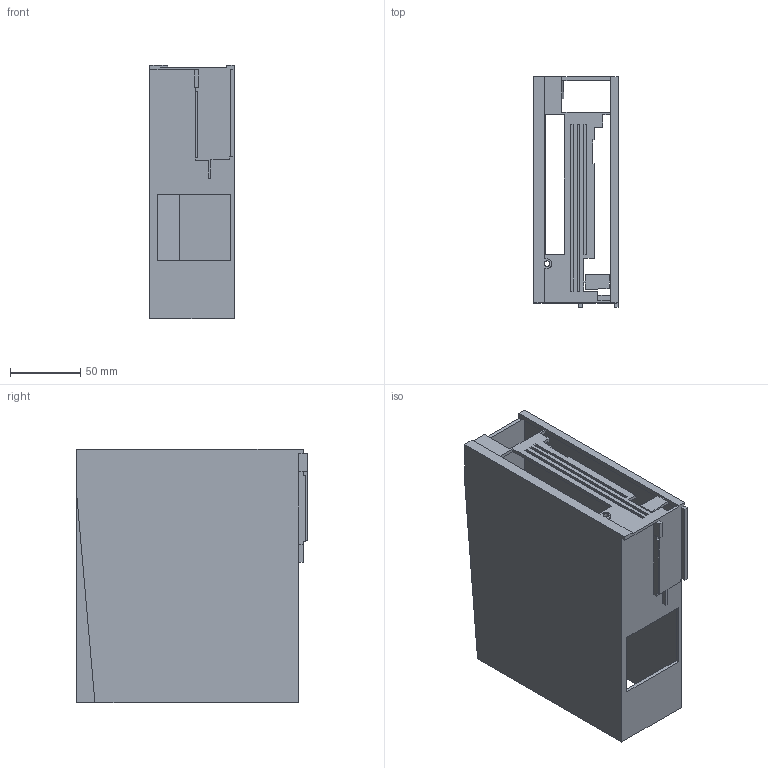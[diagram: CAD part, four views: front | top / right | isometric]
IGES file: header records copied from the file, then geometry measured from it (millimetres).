
Start section:  PTC IGES file: j4-70-100b-case.igs
Global section: file name: j4-70-100b-case.igs; native system: Pro/ENGINEER by Parametric Technology Corporation; preprocessor: 2010160; author: CV86875; organization: Unknown; date: 20121031.194149; units: millimetre
Bounding box: 60 x 164 x 180.2 mm (x, y, z)
Volume: 203586.3 mm3; surface area: 163749.7 mm2
Topology: 1 solids, 1 shells, 100 faces, 296 edges, 197 vertices
Faces by surface type: bspline 100
